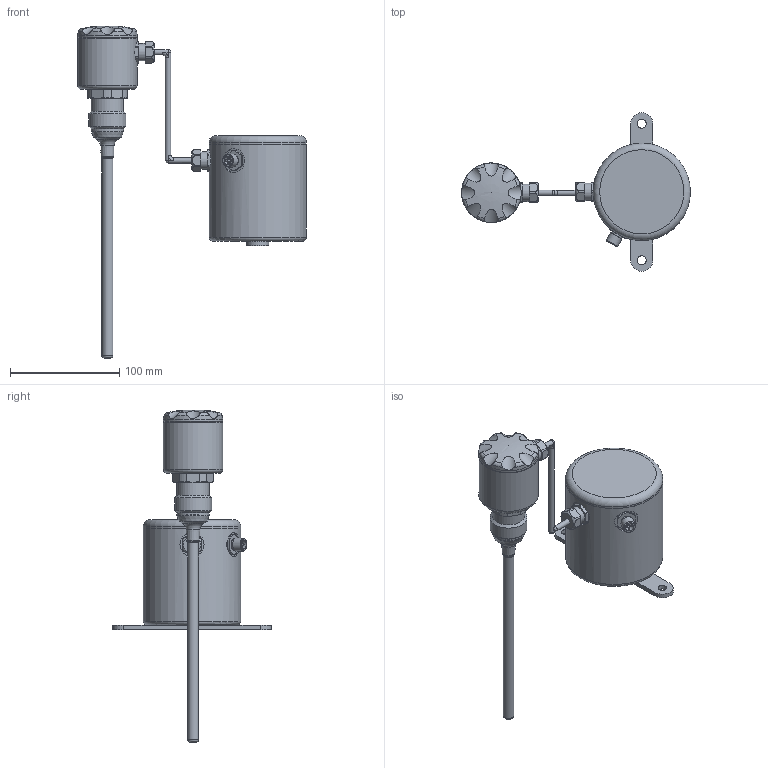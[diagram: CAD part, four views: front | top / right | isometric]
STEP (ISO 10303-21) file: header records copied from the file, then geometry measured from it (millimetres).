
FILE_DESCRIPTION( ( 'Unknown' ), '1' );
FILE_NAME( 'Z:/U_Proces/dokumentation new/Mechanical parts/7000 3D Step filer/7000-/7000229/LSP-055.020.2.500.stp', 'Unknown', ( 'Unknown' ), ( 'Unknown' ), 'PSStep 15.0.49', 'Unknown', ' ' );
FILE_SCHEMA( ( 'AUTOMOTIVE_DESIGN { 1 0 10303 214 1 1 1 1 }' ) );
Length unit declared in the file: millimetre
Products named in the file (1): kms-061-000-500
Bounding box: 209.23 x 144.88 x 303.55 mm (x, y, z)
Volume: 245388.6 mm3; surface area: 129016.8 mm2
Topology: 1 solids, 7 shells, 300 faces, 692 edges, 455 vertices
Faces by surface type: cylinder 116, plane 114, cone 46, torus 20, bspline 2, sphere 2
Full cylindrical faces by diameter (mm): 1.64 x4, 3 x6, 4 x4, 5 x5, 7 x1, 7.709 x1, 8 x3, 10 x3, 10.2 x1, 10.5 x1, 11.741 x1, 11.9 x1, 13.8 x1, 14 x1, 15.8 x1, 16 x8, 21.5 x1, 22 x2, 24.98 x1, 25 x1, 26 x2, 29.5 x2, 33.82 x1, 40 x1, 45 x1, 48.2 x1, 50 x1, 52.2 x1, 54.5 x2, 71 x1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
Entity records: 11313 total; most frequent: CARTESIAN_POINT 2815, DIRECTION 1330, ORIENTED_EDGE 1008, AXIS2_PLACEMENT_3D 589, EDGE_CURVE 504, EDGE_LOOP 490, VERTEX_POINT 395, FACE_OUTER_BOUND 381
